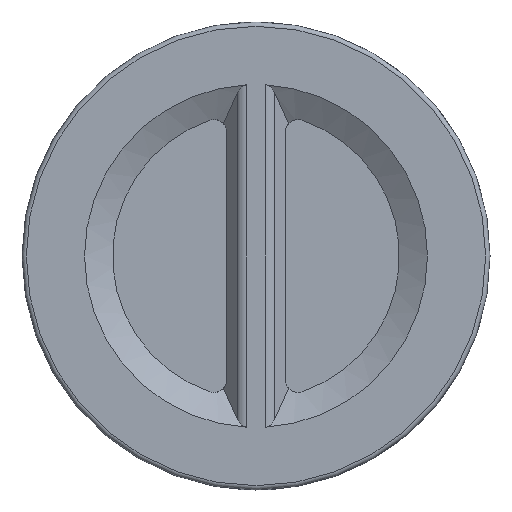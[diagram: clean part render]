
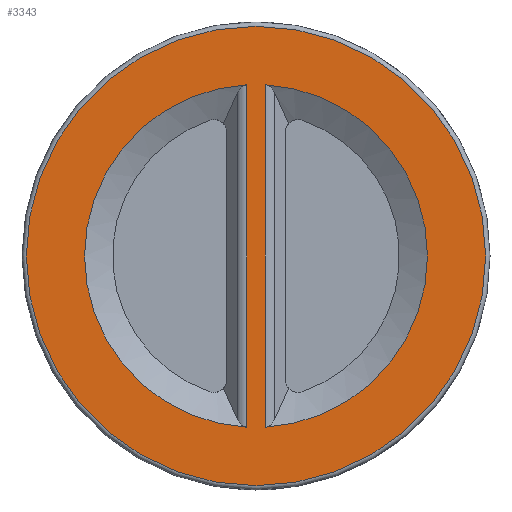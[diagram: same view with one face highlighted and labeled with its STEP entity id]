
A CAD part, front view. The second image highlights one B-rep face of the part: STEP entity #3343.
In plain terms, the highlighted planar face has unit normal (0, -1, 0).
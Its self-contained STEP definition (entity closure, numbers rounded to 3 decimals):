
#28=PLANE('',#3657);
#158=FACE_BOUND('',#628,.T.);
#159=FACE_BOUND('',#629,.T.);
#219=CIRCLE('',#3549,106.5);
#285=CIRCLE('',#3649,79.49);
#286=CIRCLE('',#3651,79.49);
#410=FACE_OUTER_BOUND('',#627,.T.);
#627=EDGE_LOOP('',(#2525));
#628=EDGE_LOOP('',(#2526,#2527));
#629=EDGE_LOOP('',(#2528,#2529));
#879=LINE('',#6497,#1127);
#880=LINE('',#6498,#1128);
#1127=VECTOR('',#4186,1000.);
#1128=VECTOR('',#4187,1000.);
#1426=VERTEX_POINT('',#5444);
#1588=VERTEX_POINT('',#6407);
#1592=VERTEX_POINT('',#6435);
#1595=VERTEX_POINT('',#6453);
#1596=VERTEX_POINT('',#6464);
#1773=EDGE_CURVE('',#1426,#1426,#219,.T.);
#1958=EDGE_CURVE('',#1592,#1588,#285,.T.);
#1961=EDGE_CURVE('',#1595,#1596,#286,.T.);
#1968=EDGE_CURVE('',#1596,#1595,#879,.T.);
#1969=EDGE_CURVE('',#1592,#1588,#880,.T.);
#2525=ORIENTED_EDGE('',*,*,#1773,.T.);
#2526=ORIENTED_EDGE('',*,*,#1961,.F.);
#2527=ORIENTED_EDGE('',*,*,#1968,.F.);
#2528=ORIENTED_EDGE('',*,*,#1958,.F.);
#2529=ORIENTED_EDGE('',*,*,#1969,.T.);
#3343=ADVANCED_FACE('',(#410,#158,#159),#28,.F.);
#3549=AXIS2_PLACEMENT_3D('',#5446,#3905,#3906);
#3649=AXIS2_PLACEMENT_3D('',#6446,#4167,#4168);
#3651=AXIS2_PLACEMENT_3D('',#6465,#4171,#4172);
#3657=AXIS2_PLACEMENT_3D('',#6496,#4184,#4185);
#3905=DIRECTION('center_axis',(0.,-1.,0.));
#3906=DIRECTION('ref_axis',(0.,0.,1.));
#4167=DIRECTION('center_axis',(0.,-1.,0.));
#4168=DIRECTION('ref_axis',(0.,0.,-1.));
#4171=DIRECTION('center_axis',(0.,-1.,0.));
#4172=DIRECTION('ref_axis',(0.,0.,-1.));
#4184=DIRECTION('center_axis',(0.,1.,0.));
#4185=DIRECTION('ref_axis',(0.,0.,1.));
#4186=DIRECTION('',(0.,0.,1.));
#4187=DIRECTION('',(0.,0.,1.));
#5444=CARTESIAN_POINT('',(0.,-76.,-106.5));
#5446=CARTESIAN_POINT('Origin',(0.,-76.,
0.));
#6407=CARTESIAN_POINT('',(4.26,-76.,79.376));
#6435=CARTESIAN_POINT('',(4.26,-76.,-79.376));
#6446=CARTESIAN_POINT('Origin',(0.,-76.,
0.));
#6453=CARTESIAN_POINT('',(-4.26,-76.,79.376));
#6464=CARTESIAN_POINT('',(-4.26,-76.,-79.376));
#6465=CARTESIAN_POINT('Origin',(0.,-76.,
0.));
#6496=CARTESIAN_POINT('Origin',(0.,-76.,
0.));
#6497=CARTESIAN_POINT('',(-4.26,-76.,-79.376));
#6498=CARTESIAN_POINT('',(4.26,-76.,-79.376));
